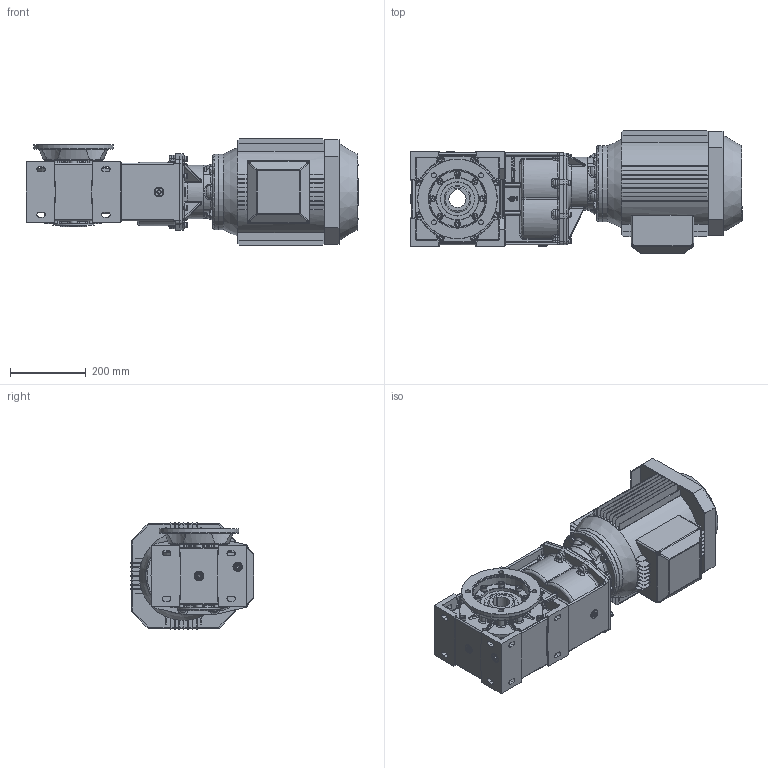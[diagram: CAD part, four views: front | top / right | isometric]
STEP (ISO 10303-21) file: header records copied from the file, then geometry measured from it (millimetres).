
FILE_DESCRIPTION((''),'2;1');
FILE_NAME('F:\Ghirri\3D\MO_RO40\Assiemi\MO40_2sFU-B14_132M.stp','2006-02-01T16:50:02',('Stefano'),(''),'Autodesk Inventor 10','Autodesk Inventor 10','');
FILE_SCHEMA(('AUTOMOTIVE_DESIGN { 1 0 10303 214 1 1 1 1 }'));
Length unit declared in the file: millimetre
Products named in the file (19): MO40_2sFU-B14_132M; Primario_MO40_2S; 3904001-A0; 3904002-A0; 3904003-A0; 3904009-A0; DIN 3760 AS AS - 70 x 90 x 10 - NBR; Guarnizione 3_8 GAS; Tappo 3_8 GAS_esagn_incsst; UNI 5931  M 10 x  25; UNI 8839 A 8; UNI 5931  M 8 x  30; motori B14 132S; FM_MRV70_D=200 b14; FM_MRV70_D=200; UNI 5738  M10 x 1.25 x 40; UNI 6593 11 x 21; FU_MV90
Assembly tree (62 placements, depth 3):
  MO40_2sFU-B14_132M
    Primario_MO40_2S
      3904001-A0
      3904002-A0
      3904003-A0
      3904009-A0
      DIN 3760 AS AS - 70 x 90 x 10 - NBR  x2
      Guarnizione 3_8 GAS  x5
      Tappo 3_8 GAS_esagn_incsst  x5
      UNI 5931  M 10 x  25  x8
      UNI 8839 A 8  x8
      UNI 5931  M 8 x  30  x8
    motori B14 132S
    FM_MRV70_D=200 b14
      FM_MRV70_D=200
      UNI 5738  M10 x 1.25 x 40  x4
      UNI 6593 11 x 21  x4
    FU_MV90
      FU_MV90
      UNI 5931  M 10 x  25  x8
Bounding box: 874 x 324 x 280 mm (x, y, z)
Volume: 31265734.4 mm3; surface area: 2112717.1 mm2
Topology: 59 solids, 60 shells, 3383 faces, 8629 edges, 5366 vertices
Faces by surface type: plane 1364, cylinder 980, bspline 852, cone 120, torus 63, sphere 4
Full cylindrical faces by diameter (mm): 8 x10, 8.5 x8, 10 x20, 10.5 x8, 11 x4, 13 x12, 14.95 x1, 16 x16, 16.2 x4, 16.3 x5, 16.5 x5, 20 x6, 21 x4, 22 x10, 25 x1, 27 x4, 38 x1, 70 x2, 76 x2, 85 x2, 90 x5, 100 x2, 110 x3, 114.4 x1, 130 x1, 140 x1, 147 x1, 152 x1, 194.4 x1, 200 x5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
Entity records: 150280 total; most frequent: CARTESIAN_POINT 83470, ORIENTED_EDGE 14142, DIRECTION 13196, EDGE_CURVE 7071, AXIS2_PLACEMENT_3D 4826, VERTEX_POINT 4516, VECTOR 3544, LINE 3544
